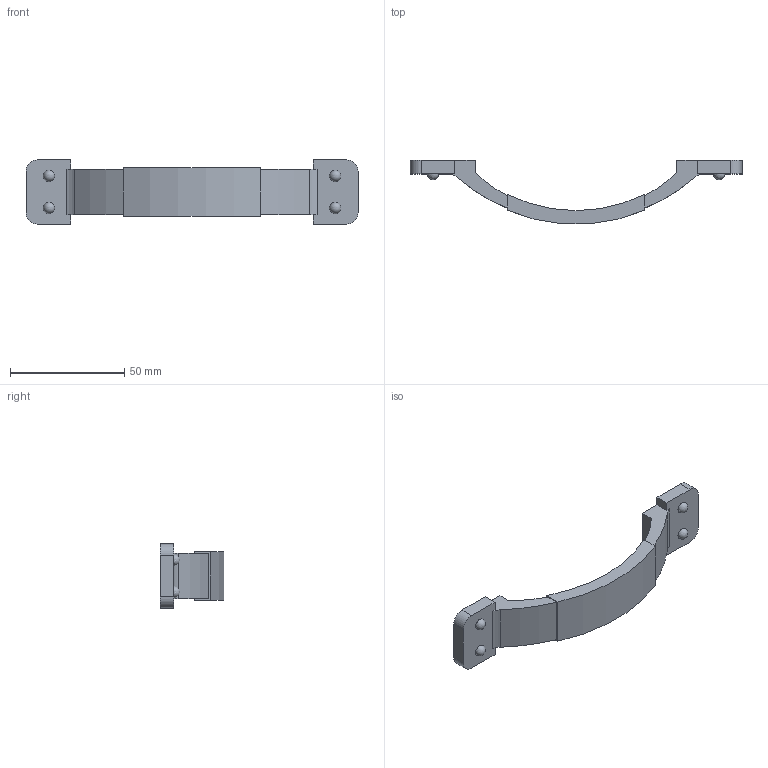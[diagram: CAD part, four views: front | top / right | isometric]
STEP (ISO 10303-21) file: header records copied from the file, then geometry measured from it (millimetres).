
FILE_DESCRIPTION( ( '' ), '1' );
FILE_NAME( 'C:/Documents and Settings/Sachin/Desktop/Sheet 10_1/stp/9071716.stp', '2013-10-22T11:34:08', ( '' ), ( '' ), ' ', ' ', ' ' );
FILE_SCHEMA( ( 'CONFIG_CONTROL_DESIGN' ) );
Length unit declared in the file: millimetre
Products named in the file (1): 1
Bounding box: 145 x 27.75 x 28 mm (x, y, z)
Volume: 21547.3 mm3; surface area: 9850.6 mm2
Topology: 1 solids, 1 shells, 46 faces, 128 edges, 84 vertices
Faces by surface type: plane 26, cylinder 16, sphere 4
Entity records: 1488 total; most frequent: DIRECTION 258, CARTESIAN_POINT 251, ORIENTED_EDGE 240, EDGE_CURVE 120, AXIS2_PLACEMENT_3D 91, VERTEX_POINT 84, LINE 76, VECTOR 76
